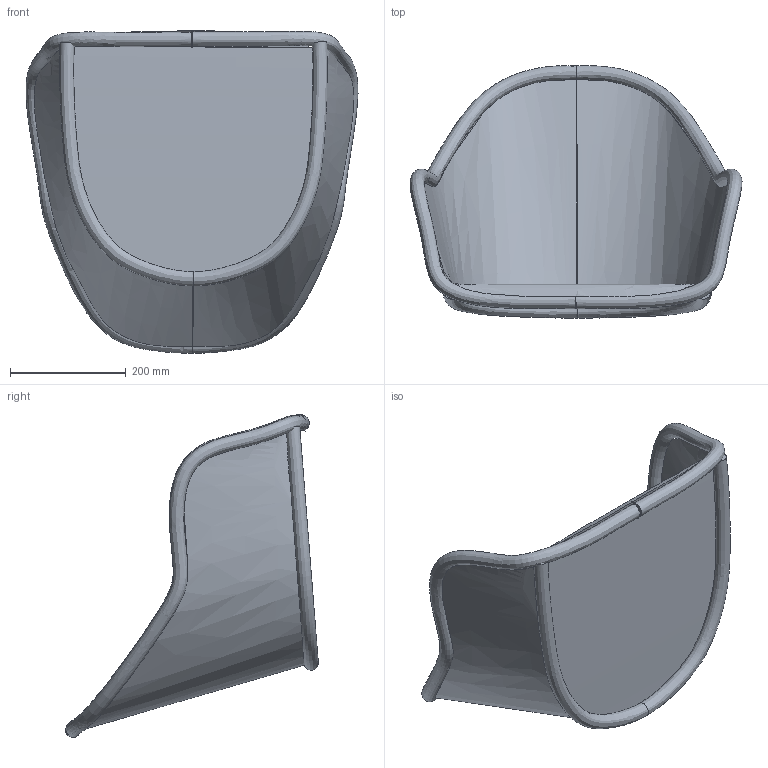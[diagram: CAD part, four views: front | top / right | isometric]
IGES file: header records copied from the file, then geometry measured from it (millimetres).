
Global section: file name: VincentSheppard_Avril_HB_OAK; native system: unknown; preprocessor: unknown; author: ict@vincentsheppard.com; organization: unknown; date: 20180514.145625; units: millimetre
Bounding box: 574.15 x 436.96 x 558.51 mm (x, y, z)
Volume: 3391359.8 mm3; surface area: 1330632.8 mm2
Topology: 4 solids, 4 shells, 30 faces, 376 edges, 362 vertices
Faces by surface type: bspline 30
